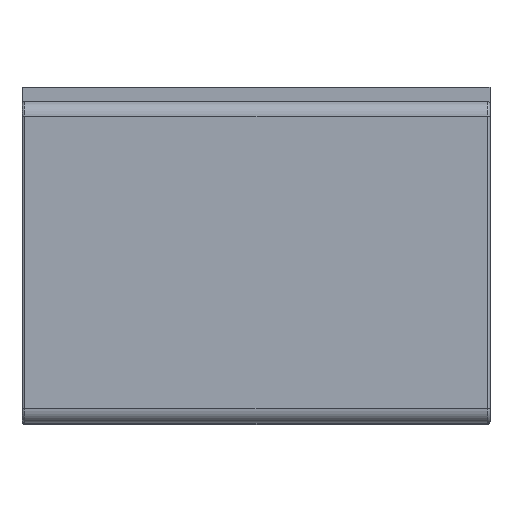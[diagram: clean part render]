
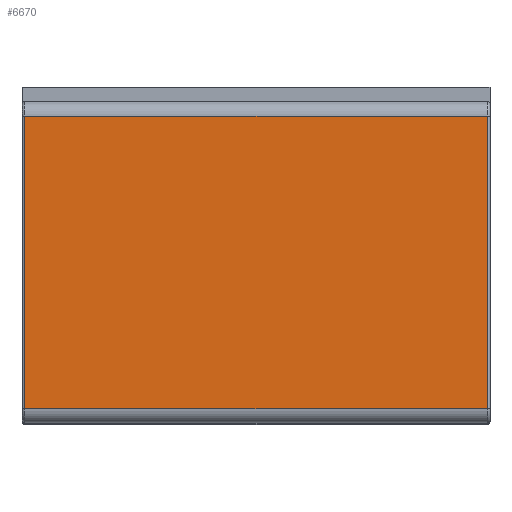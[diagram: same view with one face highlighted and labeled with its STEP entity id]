
A CAD part, top view. The second image highlights one B-rep face of the part: STEP entity #6670.
In plain terms, the highlighted planar face has unit normal (0, 0, 1) as drawn and (0, 0, -1) by its records, which use the part's own axes.
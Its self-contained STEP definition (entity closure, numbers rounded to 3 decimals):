
#77 = CARTESIAN_POINT ( 'NONE',  ( -0.395, 0.025, -0.25 ) ) ;
#170 = VERTEX_POINT ( 'NONE', #3128 ) ;
#264 = LINE ( 'NONE', #4822, #1010 ) ;
#305 = DIRECTION ( 'NONE',  ( 0., 1., 0. ) ) ;
#339 = AXIS2_PLACEMENT_3D ( 'NONE', #5650, #6192, #2986 ) ;
#348 = VERTEX_POINT ( 'NONE', #2666 ) ;
#501 = EDGE_CURVE ( 'NONE', #4040, #348, #4996, .T. ) ;
#674 = DIRECTION ( 'NONE',  ( 1., 0., 0. ) ) ;
#738 = VECTOR ( 'NONE', #305, 1000. ) ;
#996 = FACE_OUTER_BOUND ( 'NONE', #4997, .T. ) ;
#1010 = VECTOR ( 'NONE', #5369, 1000. ) ;
#1227 = CARTESIAN_POINT ( 'NONE',  ( 0.4, 0.525, -0.25 ) ) ;
#1228 = LINE ( 'NONE', #1227, #1396 ) ;
#1331 = CARTESIAN_POINT ( 'NONE',  ( -0.395, 0.55, -0.25 ) ) ;
#1389 = VERTEX_POINT ( 'NONE', #3865 ) ;
#1396 = VECTOR ( 'NONE', #674, 1000. ) ;
#1684 = ORIENTED_EDGE ( 'NONE', *, *, #501, .T. ) ;
#1899 = PLANE ( 'NONE',  #339 ) ;
#2666 = CARTESIAN_POINT ( 'NONE',  ( -0.395, 0.525, -0.25 ) ) ;
#2893 = ORIENTED_EDGE ( 'NONE', *, *, #4502, .T. ) ;
#2986 = DIRECTION ( 'NONE',  ( 0., -1., 0. ) ) ;
#3128 = CARTESIAN_POINT ( 'NONE',  ( 0.395, 0.025, -0.25 ) ) ;
#3690 = DIRECTION ( 'NONE',  ( 0., -1., 0. ) ) ;
#3865 = CARTESIAN_POINT ( 'NONE',  ( 0.395, 0.525, -0.25 ) ) ;
#4040 = VERTEX_POINT ( 'NONE', #77 ) ;
#4227 = CARTESIAN_POINT ( 'NONE',  ( 0.395, 0.025, -0.25 ) ) ;
#4502 = EDGE_CURVE ( 'NONE', #1389, #170, #6172, .T. ) ;
#4623 = EDGE_CURVE ( 'NONE', #348, #1389, #1228, .T. ) ;
#4822 = CARTESIAN_POINT ( 'NONE',  ( 0.4, 0.025, -0.25 ) ) ;
#4892 = VECTOR ( 'NONE', #3690, 1000. ) ;
#4996 = LINE ( 'NONE', #1331, #738 ) ;
#4997 = EDGE_LOOP ( 'NONE', ( #5824, #2893, #5170, #1684 ) ) ;
#5170 = ORIENTED_EDGE ( 'NONE', *, *, #5815, .T. ) ;
#5369 = DIRECTION ( 'NONE',  ( -1., 0., 0. ) ) ;
#5650 = CARTESIAN_POINT ( 'NONE',  ( 0.4, 0.55, -0.25 ) ) ;
#5815 = EDGE_CURVE ( 'NONE', #170, #4040, #264, .T. ) ;
#5824 = ORIENTED_EDGE ( 'NONE', *, *, #4623, .T. ) ;
#6172 = LINE ( 'NONE', #4227, #4892 ) ;
#6192 = DIRECTION ( 'NONE',  ( 0., 0., 1. ) ) ;
#6670 = ADVANCED_FACE ( 'NONE', ( #996 ), #1899, .F. ) ;
